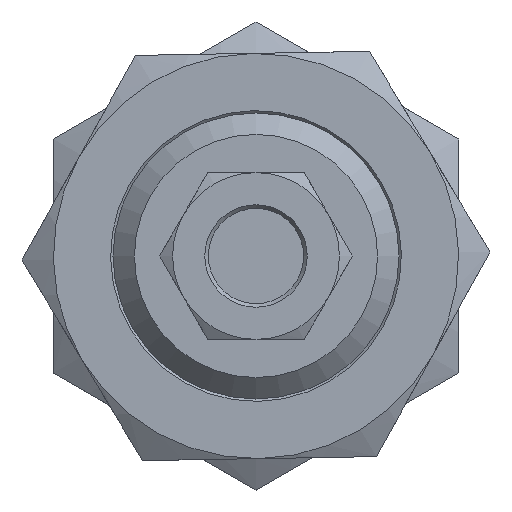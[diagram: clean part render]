
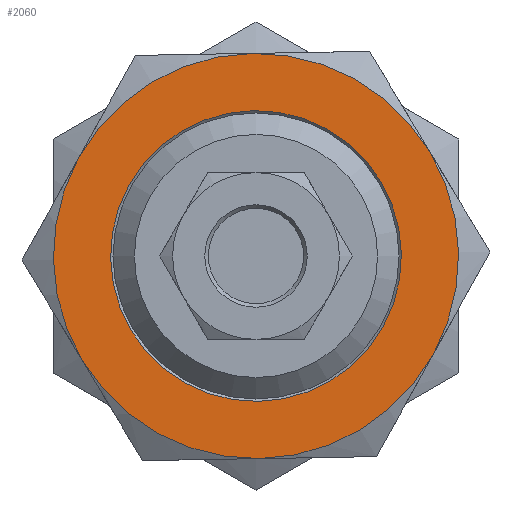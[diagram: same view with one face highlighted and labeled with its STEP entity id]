
A CAD part, front view. The second image highlights one B-rep face of the part: STEP entity #2060.
In plain terms, the highlighted planar face has unit normal (0, -1, 0) as drawn and (0, 0, 1) by its records, which use the part's own axes.
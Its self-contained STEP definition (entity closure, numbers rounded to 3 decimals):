
#1536=CARTESIAN_POINT('',(4.25,7.361,5.5));
#1537=VERTEX_POINT('',#1536);
#1551=CARTESIAN_POINT('',(-4.25,7.361,5.5));
#1552=VERTEX_POINT('',#1551);
#1566=CARTESIAN_POINT('',(0.0,0.0,5.5));
#1567=DIRECTION('',(0.0,0.0,1.0));
#1568=DIRECTION('',(0.0,-1.0,0.0));
#1569=AXIS2_PLACEMENT_3D('',#1566,#1567,#1568);
#1570=CIRCLE('',#1569,8.5);
#1571=EDGE_CURVE('',#1537,#1552,#1570,.T.);
#1583=CARTESIAN_POINT('',(8.5,0.,5.5));
#1584=VERTEX_POINT('',#1583);
#1611=CARTESIAN_POINT('',(0.0,0.0,5.5));
#1612=DIRECTION('',(0.0,0.0,1.0));
#1613=DIRECTION('',(0.0,-1.0,0.0));
#1614=AXIS2_PLACEMENT_3D('',#1611,#1612,#1613);
#1615=CIRCLE('',#1614,8.5);
#1616=EDGE_CURVE('',#1584,#1537,#1615,.T.);
#1628=CARTESIAN_POINT('',(4.25,-7.361,5.5));
#1629=VERTEX_POINT('',#1628);
#1656=CARTESIAN_POINT('',(0.0,0.0,5.5));
#1657=DIRECTION('',(0.0,0.0,1.0));
#1658=DIRECTION('',(0.0,-1.0,0.0));
#1659=AXIS2_PLACEMENT_3D('',#1656,#1657,#1658);
#1660=CIRCLE('',#1659,8.5);
#1661=EDGE_CURVE('',#1629,#1584,#1660,.T.);
#1686=CARTESIAN_POINT('',(-4.25,-7.361,5.5));
#1687=VERTEX_POINT('',#1686);
#1688=CARTESIAN_POINT('',(0.0,0.0,5.5));
#1689=DIRECTION('',(0.0,0.0,1.0));
#1690=DIRECTION('',(0.0,-1.0,0.0));
#1691=AXIS2_PLACEMENT_3D('',#1688,#1689,#1690);
#1692=CIRCLE('',#1691,8.5);
#1693=EDGE_CURVE('',#1687,#1629,#1692,.T.);
#1731=CARTESIAN_POINT('',(-8.5,0.0,5.5));
#1732=VERTEX_POINT('',#1731);
#1733=CARTESIAN_POINT('',(0.0,0.0,5.5));
#1734=DIRECTION('',(0.0,0.0,1.0));
#1735=DIRECTION('',(0.0,-1.0,0.0));
#1736=AXIS2_PLACEMENT_3D('',#1733,#1734,#1735);
#1737=CIRCLE('',#1736,8.5);
#1738=EDGE_CURVE('',#1732,#1687,#1737,.T.);
#1776=CARTESIAN_POINT('',(0.0,0.0,5.5));
#1777=DIRECTION('',(0.0,0.0,1.0));
#1778=DIRECTION('',(0.0,-1.0,0.0));
#1779=AXIS2_PLACEMENT_3D('',#1776,#1777,#1778);
#1780=CIRCLE('',#1779,8.5);
#1781=EDGE_CURVE('',#1552,#1732,#1780,.T.);
#1936=CARTESIAN_POINT('',(6.1,0.0,5.5));
#1937=VERTEX_POINT('',#1936);
#1938=CARTESIAN_POINT('',(0.0,0.0,5.5));
#1939=DIRECTION('',(0.0,0.0,-1.0));
#1940=DIRECTION('',(1.0,0.0,0.0));
#1941=AXIS2_PLACEMENT_3D('',#1938,#1939,#1940);
#1942=CIRCLE('',#1941,6.1);
#1943=EDGE_CURVE('',#1937,#1937,#1942,.T.);
#2044=CARTESIAN_POINT('',(0.,0.,5.5));
#2045=DIRECTION('',(0.0,0.0,1.0));
#2046=DIRECTION('',(1.0,0.0,0.0));
#2047=AXIS2_PLACEMENT_3D('',#2044,#2045,#2046);
#2048=PLANE('',#2047);
#2049=ORIENTED_EDGE('',*,*,#1781,.T.);
#2050=ORIENTED_EDGE('',*,*,#1738,.T.);
#2051=ORIENTED_EDGE('',*,*,#1693,.T.);
#2052=ORIENTED_EDGE('',*,*,#1661,.T.);
#2053=ORIENTED_EDGE('',*,*,#1616,.T.);
#2054=ORIENTED_EDGE('',*,*,#1571,.T.);
#2055=EDGE_LOOP('',(#2049,#2050,#2051,#2052,#2053,#2054));
#2056=FACE_OUTER_BOUND('',#2055,.T.);
#2057=ORIENTED_EDGE('',*,*,#1943,.T.);
#2058=EDGE_LOOP('',(#2057));
#2059=FACE_BOUND('',#2058,.T.);
#2060=ADVANCED_FACE('',(#2056,#2059),#2048,.T.);
